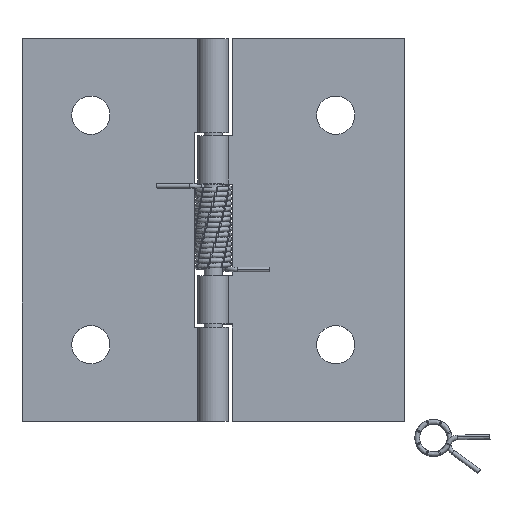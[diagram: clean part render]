
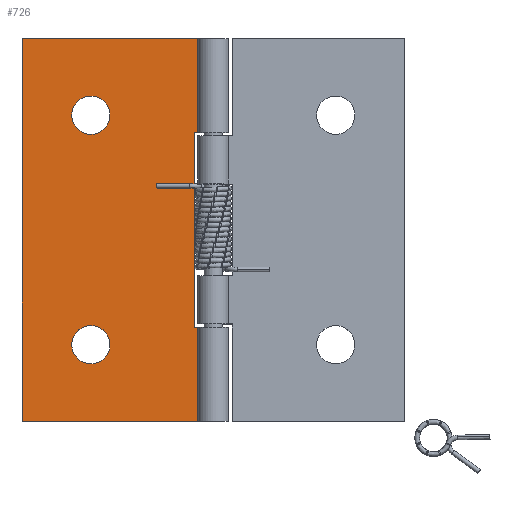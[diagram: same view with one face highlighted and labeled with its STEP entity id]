
A CAD part, top view. The second image highlights one B-rep face of the part: STEP entity #726.
In plain terms, the highlighted planar face has unit normal (0, 0, 1) as drawn and (0, 1, 0) by its records, which use the part's own axes.
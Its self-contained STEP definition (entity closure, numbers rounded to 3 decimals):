
#216=CARTESIAN_POINT('',(-6.193,-1.6,-17.5));
#217=VERTEX_POINT('',#216);
#226=CARTESIAN_POINT('',(-6.193,-1.6,-12.5));
#227=VERTEX_POINT('',#226);
#228=CARTESIAN_POINT('',(-6.193,-1.6,-15.0));
#229=DIRECTION('',(0.0,-1.0,0.0));
#230=DIRECTION('',(0.0,0.0,-1.0));
#231=AXIS2_PLACEMENT_3D('',#228,#229,#230);
#232=CIRCLE('',#231,2.5);
#233=EDGE_CURVE('',#227,#217,#232,.T.);
#258=CARTESIAN_POINT('',(-6.193,-1.6,12.5));
#259=VERTEX_POINT('',#258);
#268=CARTESIAN_POINT('',(-6.193,-1.6,17.5));
#269=VERTEX_POINT('',#268);
#270=CARTESIAN_POINT('',(-6.193,-1.6,15.0));
#271=DIRECTION('',(0.0,-1.0,0.0));
#272=DIRECTION('',(0.0,0.0,-1.0));
#273=AXIS2_PLACEMENT_3D('',#270,#271,#272);
#274=CIRCLE('',#273,2.5);
#275=EDGE_CURVE('',#269,#259,#274,.T.);
#352=CARTESIAN_POINT('',(9.807,-1.6,12.7));
#353=VERTEX_POINT('',#352);
#361=CARTESIAN_POINT('',(9.807,-1.6,25.0));
#362=VERTEX_POINT('',#361);
#363=CARTESIAN_POINT('',(9.807,-1.6,12.7));
#364=DIRECTION('',(0.0,0.0,1.0));
#365=VECTOR('',#364,12.3);
#366=LINE('',#363,#365);
#367=EDGE_CURVE('',#353,#362,#366,.T.);
#436=CARTESIAN_POINT('',(9.807,-1.6,-25.0));
#437=VERTEX_POINT('',#436);
#445=CARTESIAN_POINT('',(9.807,-1.6,-12.7));
#446=VERTEX_POINT('',#445);
#447=CARTESIAN_POINT('',(9.807,-1.6,-25.0));
#448=DIRECTION('',(0.0,0.0,1.0));
#449=VECTOR('',#448,12.3);
#450=LINE('',#447,#449);
#451=EDGE_CURVE('',#437,#446,#450,.T.);
#560=CARTESIAN_POINT('',(7.307,-1.6,12.7));
#561=VERTEX_POINT('',#560);
#568=CARTESIAN_POINT('',(9.807,-1.6,12.7));
#569=DIRECTION('',(-1.0,0.0,0.0));
#570=VECTOR('',#569,2.5);
#571=LINE('',#568,#570);
#572=EDGE_CURVE('',#353,#561,#571,.T.);
#599=CARTESIAN_POINT('',(7.307,-1.6,-12.7));
#600=VERTEX_POINT('',#599);
#601=CARTESIAN_POINT('',(7.307,-1.6,12.7));
#602=DIRECTION('',(0.0,0.0,-1.0));
#603=VECTOR('',#602,25.4);
#604=LINE('',#601,#603);
#605=EDGE_CURVE('',#561,#600,#604,.T.);
#646=CARTESIAN_POINT('',(7.307,-1.6,-12.7));
#647=DIRECTION('',(1.0,0.0,0.0));
#648=VECTOR('',#647,2.5);
#649=LINE('',#646,#648);
#650=EDGE_CURVE('',#600,#446,#649,.T.);
#672=CARTESIAN_POINT('',(-14.5,-1.6,-25.0));
#673=DIRECTION('',(0.0,1.0,0.0));
#674=DIRECTION('',(0.0,0.0,1.0));
#675=AXIS2_PLACEMENT_3D('',#672,#673,#674);
#676=PLANE('',#675);
#677=ORIENTED_EDGE('',*,*,#572,.T.);
#678=ORIENTED_EDGE('',*,*,#605,.T.);
#679=ORIENTED_EDGE('',*,*,#650,.T.);
#680=ORIENTED_EDGE('',*,*,#451,.F.);
#681=CARTESIAN_POINT('',(-15.193,-1.6,-25.0));
#682=VERTEX_POINT('',#681);
#683=CARTESIAN_POINT('',(9.807,-1.6,-25.0));
#684=DIRECTION('',(-1.0,0.0,0.0));
#685=VECTOR('',#684,25.);
#686=LINE('',#683,#685);
#687=EDGE_CURVE('',#437,#682,#686,.T.);
#688=ORIENTED_EDGE('',*,*,#687,.T.);
#689=CARTESIAN_POINT('',(-15.193,-1.6,25.0));
#690=VERTEX_POINT('',#689);
#691=CARTESIAN_POINT('',(-15.193,-1.6,-25.0));
#692=DIRECTION('',(0.0,0.0,1.0));
#693=VECTOR('',#692,50.0);
#694=LINE('',#691,#693);
#695=EDGE_CURVE('',#682,#690,#694,.T.);
#696=ORIENTED_EDGE('',*,*,#695,.T.);
#697=CARTESIAN_POINT('',(-15.193,-1.6,25.0));
#698=DIRECTION('',(1.0,0.0,0.0));
#699=VECTOR('',#698,25.);
#700=LINE('',#697,#699);
#701=EDGE_CURVE('',#690,#362,#700,.T.);
#702=ORIENTED_EDGE('',*,*,#701,.T.);
#703=ORIENTED_EDGE('',*,*,#367,.F.);
#704=EDGE_LOOP('',(#677,#678,#679,#680,#688,#696,#702,#703));
#705=FACE_OUTER_BOUND('',#704,.T.);
#706=ORIENTED_EDGE('',*,*,#233,.T.);
#707=CARTESIAN_POINT('',(-6.193,-1.6,-15.0));
#708=DIRECTION('',(0.0,-1.0,0.0));
#709=DIRECTION('',(0.0,0.0,-1.0));
#710=AXIS2_PLACEMENT_3D('',#707,#708,#709);
#711=CIRCLE('',#710,2.5);
#712=EDGE_CURVE('',#217,#227,#711,.T.);
#713=ORIENTED_EDGE('',*,*,#712,.T.);
#714=EDGE_LOOP('',(#706,#713));
#715=FACE_BOUND('',#714,.T.);
#716=ORIENTED_EDGE('',*,*,#275,.T.);
#717=CARTESIAN_POINT('',(-6.193,-1.6,15.0));
#718=DIRECTION('',(0.0,-1.0,0.0));
#719=DIRECTION('',(0.0,0.0,-1.0));
#720=AXIS2_PLACEMENT_3D('',#717,#718,#719);
#721=CIRCLE('',#720,2.5);
#722=EDGE_CURVE('',#259,#269,#721,.T.);
#723=ORIENTED_EDGE('',*,*,#722,.T.);
#724=EDGE_LOOP('',(#716,#723));
#725=FACE_BOUND('',#724,.T.);
#726=ADVANCED_FACE('',(#705,#715,#725),#676,.T.);
